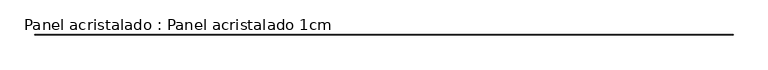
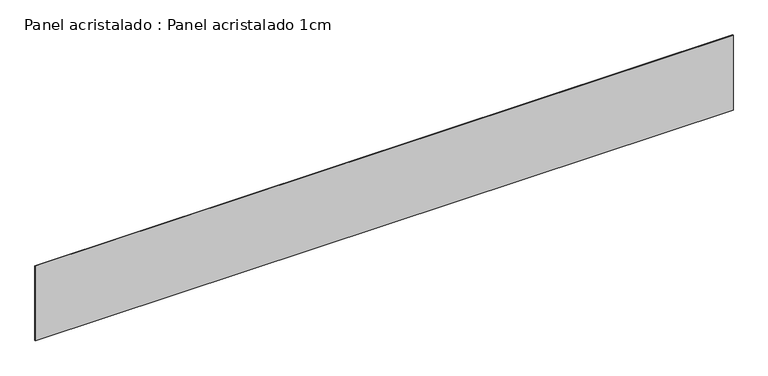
"""IFC4 building model written with IfcOpenShell, lengths in millimetres: plate geometry, Panel acristalado : Panel acristalado 1cm."""

from ifc_helpers import new_model, si_unit, origin, origin_with_axes, place, context, project, spatial, polyline, outline, extrude, source, transform, mapped, element, save


def panel_acristalado_panel_acristalado_1cm_c159a7d5(model_context):
    return source(origin(), model_context, "Body", "SweptSolid", [
        extrude(outline(polyline([(7970.1648694, -5.0), (-7970.1648694, -5.0), (-7970.1648694, 5.0), (7970.1648694, 5.0), (7970.1648694, -5.0)])), origin_with_axes(), (0.0, 0.0, 1.0), 1810.0),
    ])


if __name__ == "__main__":
    model = new_model("IFC4")
    model_context = context("Model", 3, world=origin())
    ifc_project = project(units=[si_unit("LENGTHUNIT", "METRE", prefix="MILLI")], contexts=[model_context])
    site = spatial("IfcSite", under=ifc_project)
    building = spatial("IfcBuilding", under=site)
    placement = place(None, origin())
    panel_acristalado_panel_acristalado_1cm_shape = panel_acristalado_panel_acristalado_1cm_c159a7d5(model_context)
    element("IfcPlate", 1, ObjectType="Panel acristalado : Panel acristalado 1cm", at=placement, inside=building, context=model_context, shape_type="MappedRepresentation", body=[
        mapped(panel_acristalado_panel_acristalado_1cm_shape, transform((0.0, 0.0, 0.0), x_axis=(1.0, 0.0, 0.0), y_axis=(0.0, 1.0, 0.0), z_axis=(0.0, 0.0, 1.0))),
    ])
    save(model, "model.ifc")
